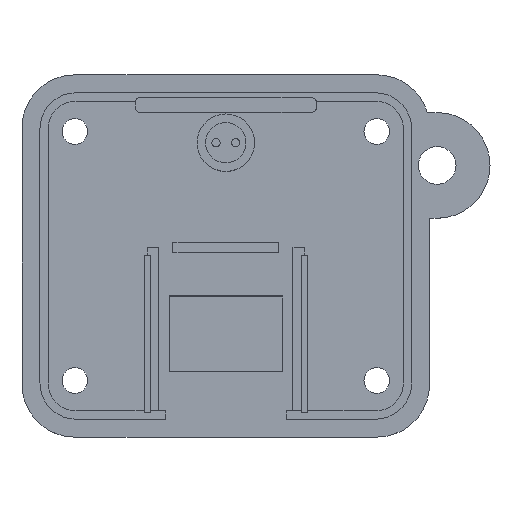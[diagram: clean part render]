
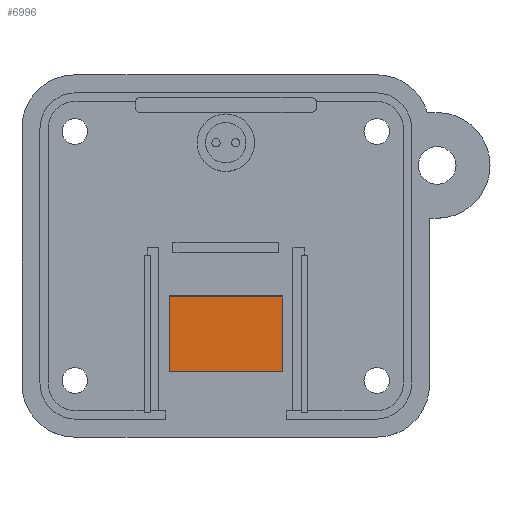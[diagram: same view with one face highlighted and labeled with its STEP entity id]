
A CAD part, top view. The second image highlights one B-rep face of the part: STEP entity #6996.
In plain terms, the highlighted planar face has unit normal (0, 0, 1).
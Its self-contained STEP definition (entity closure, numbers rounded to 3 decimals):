
#1159 = PLANE('',#1160);
#1160 = AXIS2_PLACEMENT_3D('',#1161,#1162,#1163);
#1161 = CARTESIAN_POINT('',(-7.5,-15.3,1.2));
#1162 = DIRECTION('',(0.,1.,0.));
#1163 = DIRECTION('',(0.,0.,1.));
#1185 = PLANE('',#1186);
#1186 = AXIS2_PLACEMENT_3D('',#1187,#1188,#1189);
#1187 = CARTESIAN_POINT('',(-7.5,-15.3,1.2));
#1188 = DIRECTION('',(1.,0.,0.));
#1189 = DIRECTION('',(0.,0.,1.));
#1211 = PLANE('',#1212);
#1212 = AXIS2_PLACEMENT_3D('',#1213,#1214,#1215);
#1213 = CARTESIAN_POINT('',(-7.5,-5.3,1.2));
#1214 = DIRECTION('',(0.,1.,0.));
#1215 = DIRECTION('',(0.,0.,1.));
#1235 = PLANE('',#1236);
#1236 = AXIS2_PLACEMENT_3D('',#1237,#1238,#1239);
#1237 = CARTESIAN_POINT('',(7.5,-15.3,1.2));
#1238 = DIRECTION('',(1.,0.,0.));
#1239 = DIRECTION('',(0.,0.,1.));
#3716 = VERTEX_POINT('',#3717);
#3717 = CARTESIAN_POINT('',(7.5,-15.3,1.2));
#3738 = EDGE_CURVE('',#3739,#3716,#3741,.T.);
#3739 = VERTEX_POINT('',#3740);
#3740 = CARTESIAN_POINT('',(-7.5,-15.3,1.2));
#3741 = SURFACE_CURVE('',#3742,(#3746,#3753),.PCURVE_S1.);
#3742 = LINE('',#3743,#3744);
#3743 = CARTESIAN_POINT('',(-7.5,-15.3,1.2));
#3744 = VECTOR('',#3745,1.);
#3745 = DIRECTION('',(1.,0.,0.));
#3746 = PCURVE('',#1159,#3747);
#3747 = DEFINITIONAL_REPRESENTATION('',(#3748),#3752);
#3748 = LINE('',#3749,#3750);
#3749 = CARTESIAN_POINT('',(0.,0.));
#3750 = VECTOR('',#3751,1.);
#3751 = DIRECTION('',(0.,1.));
#3752 = ( GEOMETRIC_REPRESENTATION_CONTEXT(2) 
PARAMETRIC_REPRESENTATION_CONTEXT() REPRESENTATION_CONTEXT('2D SPACE',''
  ) );
#3753 = PCURVE('',#3754,#3759);
#3754 = PLANE('',#3755);
#3755 = AXIS2_PLACEMENT_3D('',#3756,#3757,#3758);
#3756 = CARTESIAN_POINT('',(-7.5,-15.3,1.2));
#3757 = DIRECTION('',(0.,0.,1.));
#3758 = DIRECTION('',(1.,0.,0.));
#3759 = DEFINITIONAL_REPRESENTATION('',(#3760),#3764);
#3760 = LINE('',#3761,#3762);
#3761 = CARTESIAN_POINT('',(0.,0.));
#3762 = VECTOR('',#3763,1.);
#3763 = DIRECTION('',(1.,0.));
#3764 = ( GEOMETRIC_REPRESENTATION_CONTEXT(2) 
PARAMETRIC_REPRESENTATION_CONTEXT() REPRESENTATION_CONTEXT('2D SPACE',''
  ) );
#3792 = EDGE_CURVE('',#3716,#3793,#3795,.T.);
#3793 = VERTEX_POINT('',#3794);
#3794 = CARTESIAN_POINT('',(7.5,-5.3,1.2));
#3795 = SURFACE_CURVE('',#3796,(#3800,#3807),.PCURVE_S1.);
#3796 = LINE('',#3797,#3798);
#3797 = CARTESIAN_POINT('',(7.5,-15.3,1.2));
#3798 = VECTOR('',#3799,1.);
#3799 = DIRECTION('',(0.,1.,0.));
#3800 = PCURVE('',#1235,#3801);
#3801 = DEFINITIONAL_REPRESENTATION('',(#3802),#3806);
#3802 = LINE('',#3803,#3804);
#3803 = CARTESIAN_POINT('',(0.,0.));
#3804 = VECTOR('',#3805,1.);
#3805 = DIRECTION('',(0.,-1.));
#3806 = ( GEOMETRIC_REPRESENTATION_CONTEXT(2) 
PARAMETRIC_REPRESENTATION_CONTEXT() REPRESENTATION_CONTEXT('2D SPACE',''
  ) );
#3807 = PCURVE('',#3754,#3808);
#3808 = DEFINITIONAL_REPRESENTATION('',(#3809),#3813);
#3809 = LINE('',#3810,#3811);
#3810 = CARTESIAN_POINT('',(15.,0.));
#3811 = VECTOR('',#3812,1.);
#3812 = DIRECTION('',(0.,1.));
#3813 = ( GEOMETRIC_REPRESENTATION_CONTEXT(2) 
PARAMETRIC_REPRESENTATION_CONTEXT() REPRESENTATION_CONTEXT('2D SPACE',''
  ) );
#3841 = EDGE_CURVE('',#3739,#3842,#3844,.T.);
#3842 = VERTEX_POINT('',#3843);
#3843 = CARTESIAN_POINT('',(-7.5,-5.3,1.2));
#3844 = SURFACE_CURVE('',#3845,(#3849,#3856),.PCURVE_S1.);
#3845 = LINE('',#3846,#3847);
#3846 = CARTESIAN_POINT('',(-7.5,-15.3,1.2));
#3847 = VECTOR('',#3848,1.);
#3848 = DIRECTION('',(0.,1.,0.));
#3849 = PCURVE('',#1185,#3850);
#3850 = DEFINITIONAL_REPRESENTATION('',(#3851),#3855);
#3851 = LINE('',#3852,#3853);
#3852 = CARTESIAN_POINT('',(0.,0.));
#3853 = VECTOR('',#3854,1.);
#3854 = DIRECTION('',(0.,-1.));
#3855 = ( GEOMETRIC_REPRESENTATION_CONTEXT(2) 
PARAMETRIC_REPRESENTATION_CONTEXT() REPRESENTATION_CONTEXT('2D SPACE',''
  ) );
#3856 = PCURVE('',#3754,#3857);
#3857 = DEFINITIONAL_REPRESENTATION('',(#3858),#3862);
#3858 = LINE('',#3859,#3860);
#3859 = CARTESIAN_POINT('',(0.,0.));
#3860 = VECTOR('',#3861,1.);
#3861 = DIRECTION('',(0.,1.));
#3862 = ( GEOMETRIC_REPRESENTATION_CONTEXT(2) 
PARAMETRIC_REPRESENTATION_CONTEXT() REPRESENTATION_CONTEXT('2D SPACE',''
  ) );
#3890 = EDGE_CURVE('',#3842,#3793,#3891,.T.);
#3891 = SURFACE_CURVE('',#3892,(#3896,#3903),.PCURVE_S1.);
#3892 = LINE('',#3893,#3894);
#3893 = CARTESIAN_POINT('',(-7.5,-5.3,1.2));
#3894 = VECTOR('',#3895,1.);
#3895 = DIRECTION('',(1.,0.,0.));
#3896 = PCURVE('',#1211,#3897);
#3897 = DEFINITIONAL_REPRESENTATION('',(#3898),#3902);
#3898 = LINE('',#3899,#3900);
#3899 = CARTESIAN_POINT('',(0.,0.));
#3900 = VECTOR('',#3901,1.);
#3901 = DIRECTION('',(0.,1.));
#3902 = ( GEOMETRIC_REPRESENTATION_CONTEXT(2) 
PARAMETRIC_REPRESENTATION_CONTEXT() REPRESENTATION_CONTEXT('2D SPACE',''
  ) );
#3903 = PCURVE('',#3754,#3904);
#3904 = DEFINITIONAL_REPRESENTATION('',(#3905),#3909);
#3905 = LINE('',#3906,#3907);
#3906 = CARTESIAN_POINT('',(0.,10.));
#3907 = VECTOR('',#3908,1.);
#3908 = DIRECTION('',(1.,0.));
#3909 = ( GEOMETRIC_REPRESENTATION_CONTEXT(2) 
PARAMETRIC_REPRESENTATION_CONTEXT() REPRESENTATION_CONTEXT('2D SPACE',''
  ) );
#6996 = ADVANCED_FACE('',(#6997),#3754,.T.);
#6997 = FACE_BOUND('',#6998,.T.);
#6998 = EDGE_LOOP('',(#6999,#7000,#7001,#7002));
#6999 = ORIENTED_EDGE('',*,*,#3841,.F.);
#7000 = ORIENTED_EDGE('',*,*,#3738,.T.);
#7001 = ORIENTED_EDGE('',*,*,#3792,.T.);
#7002 = ORIENTED_EDGE('',*,*,#3890,.F.);
